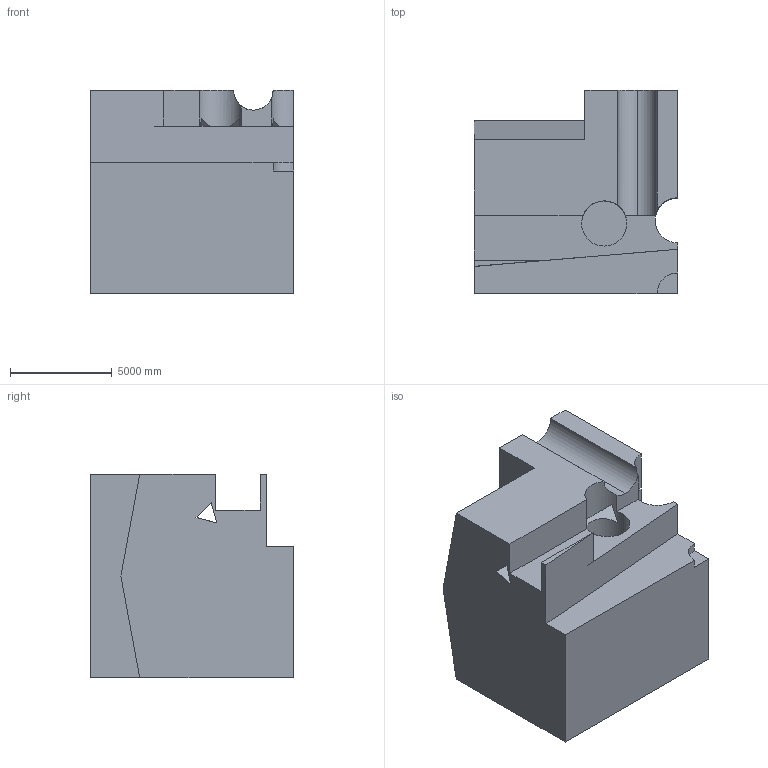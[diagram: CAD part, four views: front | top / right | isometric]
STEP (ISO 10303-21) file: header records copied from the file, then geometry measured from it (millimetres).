
FILE_DESCRIPTION (( 'STEP AP203' ), '1' );
FILE_NAME ('150.STEP', '2022-08-31T11:56:46', ( 'user' ), ( '' ), 'SwSTEP 2.0', 'SolidWorks 2021', '' );
FILE_SCHEMA (( 'CONFIG_CONTROL_DESIGN' ));
Length unit declared in the file: centimetre
Products named in the file (1): 150
Bounding box: 10000 x 10000 x 10000 mm (x, y, z)
Volume: 753755543282 mm3; surface area: 616683369.7 mm2
Topology: 1 solids, 1 shells, 31 faces, 93 edges, 62 vertices
Faces by surface type: plane 24, cylinder 7
Entity records: 1209 total; most frequent: CARTESIAN_POINT 292, ORIENTED_EDGE 186, DIRECTION 165, EDGE_CURVE 93, VECTOR 67, LINE 67, VERTEX_POINT 62, AXIS2_PLACEMENT_3D 49
